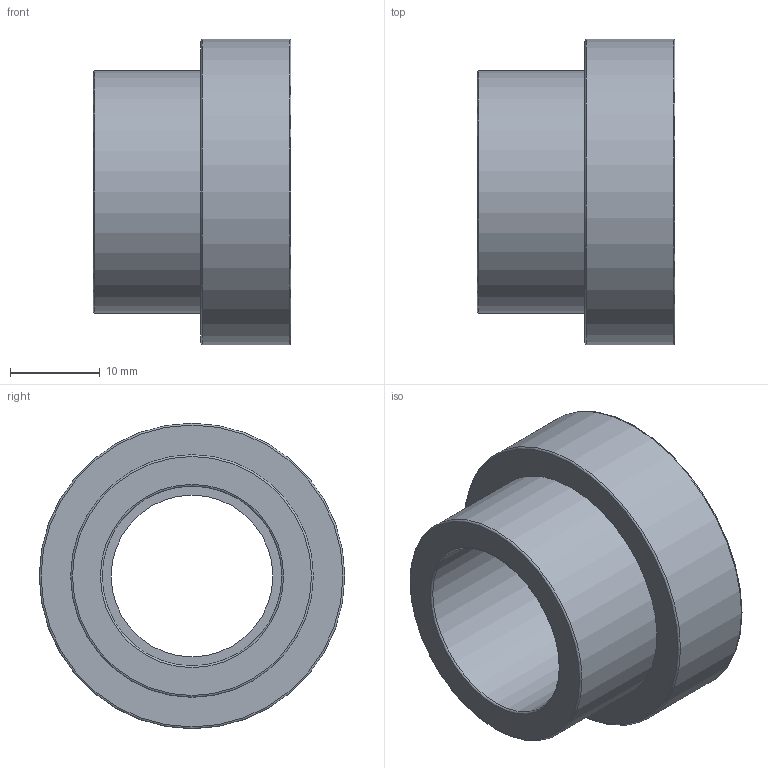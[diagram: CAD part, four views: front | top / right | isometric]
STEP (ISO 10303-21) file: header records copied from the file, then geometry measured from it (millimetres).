
FILE_DESCRIPTION(/* description */ ('PLASSON FLANGE AD.+O-RING-CE 20'),/* implementation_level */ '2;1');
FILE_NAME(/* name */ 'C:\Dropbox\KIMPROJECTS-Inventor\99-16-3568-Processing\PVC Catalog 2017\055000\055000020.ipt.stp',/* time_stamp */ '2017-12-07T16:04:29+02:00',/* author */ ('KIM'),/* organization */ (''),/* preprocessor_version */ 'ST-DEVELOPER v15.6',/* originating_system */ 'Autodesk Inventor 2015',/* authorisation */ '');
FILE_SCHEMA (('AUTOMOTIVE_DESIGN { 1 0 10303 214 3 1 1 }'));
Length unit declared in the file: millimetre
Products named in the file (1): 055000020
Bounding box: 22 x 34 x 34 mm (x, y, z)
Volume: 8804.8 mm3; surface area: 5163.7 mm2
Topology: 1 solids, 1 shells, 21 faces, 36 edges, 21 vertices
Faces by surface type: torus 9, plane 6, cylinder 6
Full cylindrical faces by diameter (mm): 18 x1, 20 x1, 23.6 x1, 27 x1, 28.4 x1, 34 x1
Entity records: 452 total; most frequent: DIRECTION 86, CARTESIAN_POINT 64, AXIS2_PLACEMENT_3D 43, EDGE_LOOP 42, ORIENTED_EDGE 42, FACE_BOUND 21, FACE_OUTER_BOUND 21, CIRCLE 21
